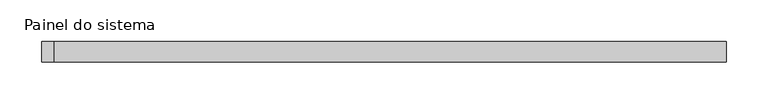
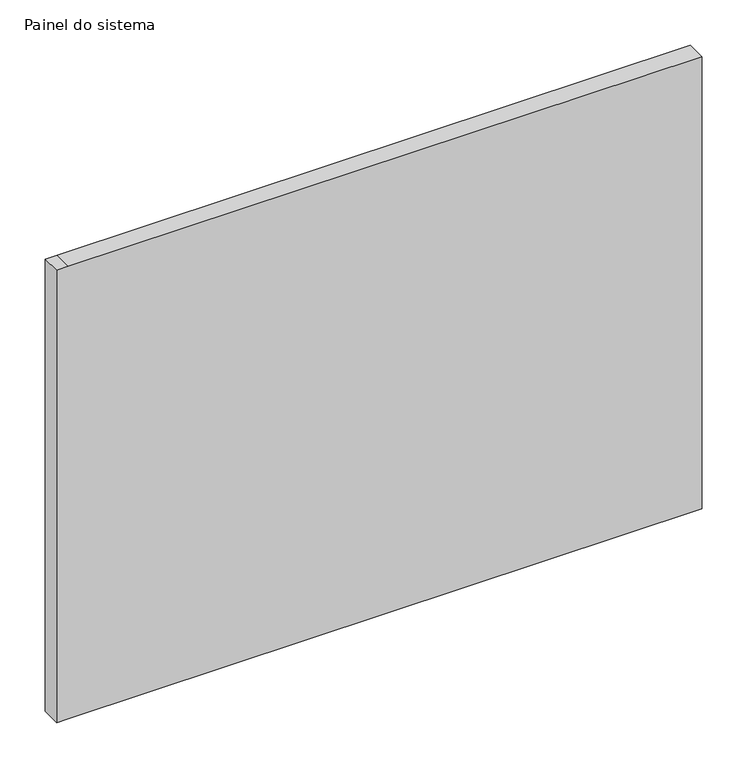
"""IFC4 building model written with IfcOpenShell, lengths in millimetres: plate geometry, Painel do sistema : Envidraçado."""

from ifc_helpers import new_model, si_unit, frame, origin, place, context, project, spatial, polyline, outline, extrude, source, transform, mapped, element, save


def painel_do_sistema_6443ffb8(model_context):
    return source(origin(), model_context, "Body", "SweptSolid", [
        extrude(outline(polyline([(0.0, -411.6666667), (0.0, -396.6666667), (0.0, 411.6666667), (610.0, 411.6666667), (610.0, -396.6666667), (610.0, -411.6666667), (0.0, -411.6666667)])), frame((0.0, 24.5, 0.0), z_axis=(0.0, 1.0, 0.0), x_axis=(0.0, 0.0, 1.0)), (0.0, 0.0, 1.0), 25.0),
    ])


if __name__ == "__main__":
    model = new_model("IFC4")
    model_context = context("Model", 3, world=origin())
    ifc_project = project(units=[si_unit("LENGTHUNIT", "METRE", prefix="MILLI")], contexts=[model_context])
    site = spatial("IfcSite", under=ifc_project)
    building = spatial("IfcBuilding", under=site)
    placement = place(None, origin())
    painel_do_sistema_shape = painel_do_sistema_6443ffb8(model_context)
    element("IfcPlate", 1, ObjectType="Painel do sistema : Envidraçado", at=placement, inside=building, context=model_context, shape_type="MappedRepresentation", body=[
        mapped(painel_do_sistema_shape, transform((0.0, 0.0, 0.0), x_axis=(1.0, 0.0, 0.0), y_axis=(0.0, 1.0, 0.0), z_axis=(0.0, 0.0, 1.0))),
    ])
    save(model, "model.ifc")
